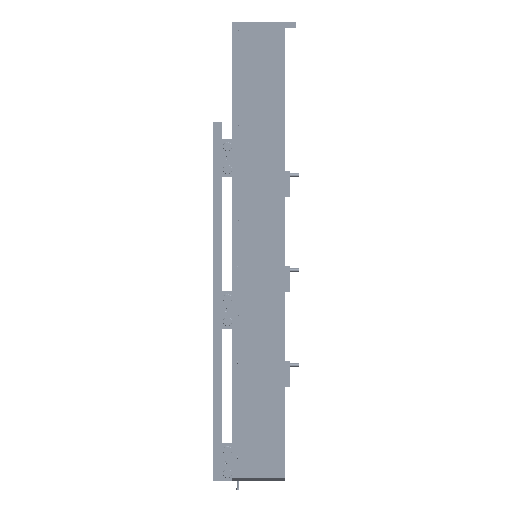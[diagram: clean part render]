
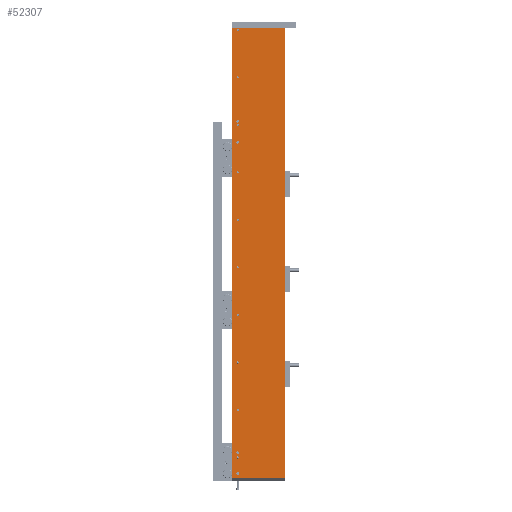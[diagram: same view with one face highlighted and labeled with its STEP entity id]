
A CAD part, left-side view. The second image highlights one B-rep face of the part: STEP entity #52307.
In plain terms, the highlighted planar face has unit normal (-1, 0, 0).
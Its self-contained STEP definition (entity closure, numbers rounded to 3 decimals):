
#52307=ADVANCED_FACE('',(#69437,#69438,#69439,#69440,#69441,#69442,#69443,
#69444,#69445,#69446,#69447,#69448,#69449,#69450,#69451),#55224,.F.);
#55224=PLANE('',#148655);
#59876=LINE('',#225321,#65040);
#59877=LINE('',#225324,#65041);
#59878=LINE('',#225326,#65042);
#59879=LINE('',#225328,#65043);
#65040=VECTOR('',#179045,1.);
#65041=VECTOR('',#179046,1.);
#65042=VECTOR('',#179047,1.);
#65043=VECTOR('',#179048,1.);
#69437=FACE_BOUND('',#77561,.T.);
#69438=FACE_BOUND('',#77562,.T.);
#69439=FACE_BOUND('',#77563,.T.);
#69440=FACE_BOUND('',#77564,.T.);
#69441=FACE_BOUND('',#77565,.T.);
#69442=FACE_BOUND('',#77566,.T.);
#69443=FACE_BOUND('',#77567,.T.);
#69444=FACE_BOUND('',#77568,.T.);
#69445=FACE_BOUND('',#77569,.T.);
#69446=FACE_BOUND('',#77570,.T.);
#69447=FACE_BOUND('',#77571,.T.);
#69448=FACE_BOUND('',#77572,.T.);
#69449=FACE_BOUND('',#77573,.T.);
#69450=FACE_BOUND('',#77574,.T.);
#69451=FACE_BOUND('',#77575,.T.);
#77561=EDGE_LOOP('',(#101840));
#77562=EDGE_LOOP('',(#101841));
#77563=EDGE_LOOP('',(#101842));
#77564=EDGE_LOOP('',(#101843));
#77565=EDGE_LOOP('',(#101844));
#77566=EDGE_LOOP('',(#101845));
#77567=EDGE_LOOP('',(#101846));
#77568=EDGE_LOOP('',(#101847));
#77569=EDGE_LOOP('',(#101848));
#77570=EDGE_LOOP('',(#101849));
#77571=EDGE_LOOP('',(#101850));
#77572=EDGE_LOOP('',(#101851));
#77573=EDGE_LOOP('',(#101852));
#77574=EDGE_LOOP('',(#101853));
#77575=EDGE_LOOP('',(#101854,#101855,#101856,#101857));
#101840=ORIENTED_EDGE('',*,*,#127029,.T.);
#101841=ORIENTED_EDGE('',*,*,#127030,.T.);
#101842=ORIENTED_EDGE('',*,*,#127031,.T.);
#101843=ORIENTED_EDGE('',*,*,#127032,.T.);
#101844=ORIENTED_EDGE('',*,*,#127033,.T.);
#101845=ORIENTED_EDGE('',*,*,#127034,.T.);
#101846=ORIENTED_EDGE('',*,*,#127035,.T.);
#101847=ORIENTED_EDGE('',*,*,#127036,.T.);
#101848=ORIENTED_EDGE('',*,*,#127037,.T.);
#101849=ORIENTED_EDGE('',*,*,#127038,.T.);
#101850=ORIENTED_EDGE('',*,*,#127039,.T.);
#101851=ORIENTED_EDGE('',*,*,#127040,.T.);
#101852=ORIENTED_EDGE('',*,*,#127041,.T.);
#101853=ORIENTED_EDGE('',*,*,#127042,.T.);
#101854=ORIENTED_EDGE('',*,*,#127043,.T.);
#101855=ORIENTED_EDGE('',*,*,#127044,.T.);
#101856=ORIENTED_EDGE('',*,*,#127045,.T.);
#101857=ORIENTED_EDGE('',*,*,#127046,.T.);
#114099=VERTEX_POINT('',#225294);
#114100=VERTEX_POINT('',#225296);
#114101=VERTEX_POINT('',#225298);
#114102=VERTEX_POINT('',#225300);
#114103=VERTEX_POINT('',#225302);
#114104=VERTEX_POINT('',#225304);
#114105=VERTEX_POINT('',#225306);
#114106=VERTEX_POINT('',#225308);
#114107=VERTEX_POINT('',#225310);
#114108=VERTEX_POINT('',#225312);
#114109=VERTEX_POINT('',#225314);
#114110=VERTEX_POINT('',#225316);
#114111=VERTEX_POINT('',#225318);
#114112=VERTEX_POINT('',#225320);
#114113=VERTEX_POINT('',#225322);
#114114=VERTEX_POINT('',#225323);
#114115=VERTEX_POINT('',#225325);
#114116=VERTEX_POINT('',#225327);
#127029=EDGE_CURVE('',#114099,#114099,#135553,.T.);
#127030=EDGE_CURVE('',#114100,#114100,#135554,.T.);
#127031=EDGE_CURVE('',#114101,#114101,#135555,.T.);
#127032=EDGE_CURVE('',#114102,#114102,#135556,.T.);
#127033=EDGE_CURVE('',#114103,#114103,#135557,.T.);
#127034=EDGE_CURVE('',#114104,#114104,#135558,.T.);
#127035=EDGE_CURVE('',#114105,#114105,#135559,.T.);
#127036=EDGE_CURVE('',#114106,#114106,#135560,.T.);
#127037=EDGE_CURVE('',#114107,#114107,#135561,.T.);
#127038=EDGE_CURVE('',#114108,#114108,#135562,.T.);
#127039=EDGE_CURVE('',#114109,#114109,#135563,.T.);
#127040=EDGE_CURVE('',#114110,#114110,#135564,.T.);
#127041=EDGE_CURVE('',#114111,#114111,#135565,.T.);
#127042=EDGE_CURVE('',#114112,#114112,#135566,.T.);
#127043=EDGE_CURVE('',#114113,#114114,#59876,.T.);
#127044=EDGE_CURVE('',#114114,#114115,#59877,.T.);
#127045=EDGE_CURVE('',#114115,#114116,#59878,.T.);
#127046=EDGE_CURVE('',#114116,#114113,#59879,.T.);
#135553=CIRCLE('',#148641,3.4);
#135554=CIRCLE('',#148642,3.4);
#135555=CIRCLE('',#148643,3.4);
#135556=CIRCLE('',#148644,3.4);
#135557=CIRCLE('',#148645,2.5);
#135558=CIRCLE('',#148646,2.5);
#135559=CIRCLE('',#148647,2.5);
#135560=CIRCLE('',#148648,2.5);
#135561=CIRCLE('',#148649,2.5);
#135562=CIRCLE('',#148650,2.5);
#135563=CIRCLE('',#148651,2.5);
#135564=CIRCLE('',#148652,2.5);
#135565=CIRCLE('',#148653,2.5);
#135566=CIRCLE('',#148654,2.5);
#148641=AXIS2_PLACEMENT_3D('',#225293,#179017,#179018);
#148642=AXIS2_PLACEMENT_3D('',#225295,#179019,#179020);
#148643=AXIS2_PLACEMENT_3D('',#225297,#179021,#179022);
#148644=AXIS2_PLACEMENT_3D('',#225299,#179023,#179024);
#148645=AXIS2_PLACEMENT_3D('',#225301,#179025,#179026);
#148646=AXIS2_PLACEMENT_3D('',#225303,#179027,#179028);
#148647=AXIS2_PLACEMENT_3D('',#225305,#179029,#179030);
#148648=AXIS2_PLACEMENT_3D('',#225307,#179031,#179032);
#148649=AXIS2_PLACEMENT_3D('',#225309,#179033,#179034);
#148650=AXIS2_PLACEMENT_3D('',#225311,#179035,#179036);
#148651=AXIS2_PLACEMENT_3D('',#225313,#179037,#179038);
#148652=AXIS2_PLACEMENT_3D('',#225315,#179039,#179040);
#148653=AXIS2_PLACEMENT_3D('',#225317,#179041,#179042);
#148654=AXIS2_PLACEMENT_3D('',#225319,#179043,#179044);
#148655=AXIS2_PLACEMENT_3D('',#225329,#179049,#179050);
#179017=DIRECTION('',(1.,0.,0.));
#179018=DIRECTION('',(0.,-1.,0.));
#179019=DIRECTION('',(1.,0.,0.));
#179020=DIRECTION('',(0.,-1.,0.));
#179021=DIRECTION('',(1.,0.,0.));
#179022=DIRECTION('',(0.,-1.,0.));
#179023=DIRECTION('',(1.,0.,0.));
#179024=DIRECTION('',(0.,-1.,0.));
#179025=DIRECTION('',(1.,0.,0.));
#179026=DIRECTION('',(0.,-1.,0.));
#179027=DIRECTION('',(1.,0.,0.));
#179028=DIRECTION('',(0.,-1.,0.));
#179029=DIRECTION('',(1.,0.,0.));
#179030=DIRECTION('',(0.,-1.,0.));
#179031=DIRECTION('',(1.,0.,0.));
#179032=DIRECTION('',(0.,-1.,0.));
#179033=DIRECTION('',(1.,0.,0.));
#179034=DIRECTION('',(0.,-1.,0.));
#179035=DIRECTION('',(1.,0.,0.));
#179036=DIRECTION('',(0.,-1.,0.));
#179037=DIRECTION('',(1.,0.,0.));
#179038=DIRECTION('',(0.,-1.,0.));
#179039=DIRECTION('',(1.,0.,0.));
#179040=DIRECTION('',(0.,-1.,0.));
#179041=DIRECTION('',(1.,0.,0.));
#179042=DIRECTION('',(0.,-1.,0.));
#179043=DIRECTION('',(1.,0.,0.));
#179044=DIRECTION('',(0.,-1.,0.));
#179045=DIRECTION('',(0.,0.,-1.));
#179046=DIRECTION('',(0.,-1.,0.));
#179047=DIRECTION('',(0.,0.,1.));
#179048=DIRECTION('',(0.,1.,0.));
#179049=DIRECTION('',(1.,0.,0.));
#179050=DIRECTION('',(0.,-1.,0.));
#225293=CARTESIAN_POINT('',(-456.,124.,108.744));
#225294=CARTESIAN_POINT('',(-456.,120.6,108.744));
#225295=CARTESIAN_POINT('',(-456.,124.,163.744));
#225296=CARTESIAN_POINT('',(-456.,120.6,163.744));
#225297=CARTESIAN_POINT('',(-456.,124.,-762.256));
#225298=CARTESIAN_POINT('',(-456.,120.6,-762.256));
#225299=CARTESIAN_POINT('',(-456.,124.,-707.256));
#225300=CARTESIAN_POINT('',(-456.,120.6,-707.256));
#225301=CARTESIAN_POINT('',(-456.,124.,404.744));
#225302=CARTESIAN_POINT('',(-456.,121.5,404.744));
#225303=CARTESIAN_POINT('',(-456.,124.,279.744));
#225304=CARTESIAN_POINT('',(-456.,121.5,279.744));
#225305=CARTESIAN_POINT('',(-456.,124.,154.744));
#225306=CARTESIAN_POINT('',(-456.,121.5,154.744));
#225307=CARTESIAN_POINT('',(-456.,124.,29.744));
#225308=CARTESIAN_POINT('',(-456.,121.5,29.744));
#225309=CARTESIAN_POINT('',(-456.,124.,-95.256));
#225310=CARTESIAN_POINT('',(-456.,121.5,-95.256));
#225311=CARTESIAN_POINT('',(-456.,124.,-220.256));
#225312=CARTESIAN_POINT('',(-456.,121.5,-220.256));
#225313=CARTESIAN_POINT('',(-456.,124.,-345.256));
#225314=CARTESIAN_POINT('',(-456.,121.5,-345.256));
#225315=CARTESIAN_POINT('',(-456.,124.,-470.256));
#225316=CARTESIAN_POINT('',(-456.,121.5,-470.256));
#225317=CARTESIAN_POINT('',(-456.,124.,-595.256));
#225318=CARTESIAN_POINT('',(-456.,121.5,-595.256));
#225319=CARTESIAN_POINT('',(-456.,124.,-720.256));
#225320=CARTESIAN_POINT('',(-456.,121.5,-720.256));
#225321=CARTESIAN_POINT('',(-456.,140.,407.244));
#225322=CARTESIAN_POINT('',(-456.,140.,410.244));
#225323=CARTESIAN_POINT('',(-456.,140.,-774.756));
#225324=CARTESIAN_POINT('',(-456.,0.,-774.756));
#225325=CARTESIAN_POINT('',(-456.,0.,-774.756));
#225326=CARTESIAN_POINT('',(-456.,0.,-672.756));
#225327=CARTESIAN_POINT('',(-456.,0.,410.244));
#225328=CARTESIAN_POINT('',(-456.,0.,410.244));
#225329=CARTESIAN_POINT('',(-456.,0.,-672.756));
